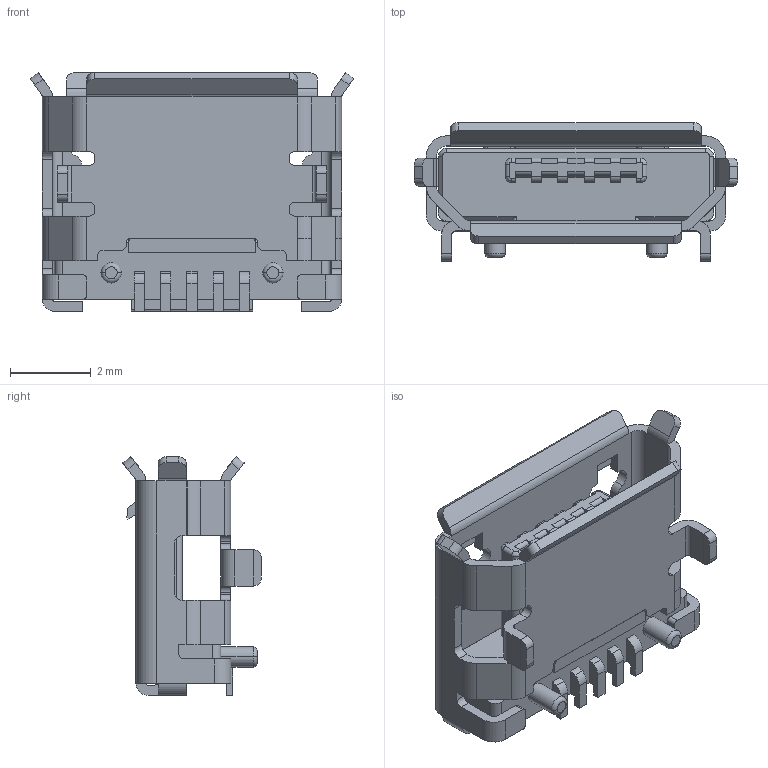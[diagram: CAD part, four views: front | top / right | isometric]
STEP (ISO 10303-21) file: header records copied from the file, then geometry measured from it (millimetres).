
FILE_DESCRIPTION((''),'2;1');
FILE_NAME('MICRO-USB_1030505AR00X','2018-08-14T',('Administrator'),(''),'PRO/ENGINEER BY PARAMETRIC TECHNOLOGY CORPORATION, 2010280','PRO/ENGINEER BY PARAMETRIC TECHNOLOGY CORPORATION, 2010280','');
FILE_SCHEMA(('CONFIG_CONTROL_DESIGN'));
Length unit declared in the file: millimetre
Products named in the file (1): MICRO-USB_1030505AR00X
Bounding box: 8 x 3.42 x 5.9 mm (x, y, z)
Surface area: 274.6 mm2 (no closed solid volume)
Topology: 0 solids, 1 shells, 465 faces, 1390 edges, 916 vertices
Faces by surface type: plane 296, cylinder 155, extrusion 4, torus 4, bspline 4, cone 2
Entity records: 15759 total; most frequent: CARTESIAN_POINT 2964, ORIENTED_EDGE 2748, DIRECTION 2590, EDGE_CURVE 1390, VECTOR 1052, LINE 1048, VERTEX_POINT 916, AXIS2_PLACEMENT_3D 769
